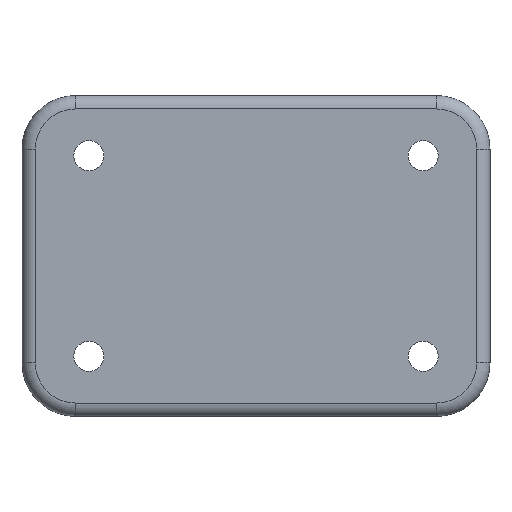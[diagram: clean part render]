
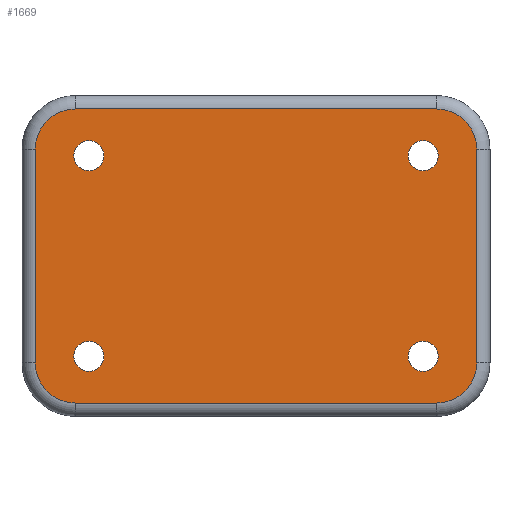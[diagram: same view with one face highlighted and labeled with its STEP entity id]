
A CAD part, front view. The second image highlights one B-rep face of the part: STEP entity #1669.
In plain terms, the highlighted planar face has unit normal (0, -1, 0).
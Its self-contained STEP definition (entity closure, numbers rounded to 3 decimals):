
#35=FACE_BOUND('',#240,.T.);
#36=FACE_BOUND('',#241,.T.);
#37=FACE_BOUND('',#242,.T.);
#38=FACE_BOUND('',#243,.T.);
#94=PLANE('',#1801);
#140=FACE_OUTER_BOUND('',#239,.T.);
#239=EDGE_LOOP('',(#1138,#1139,#1140,#1141,#1142,#1143,#1144,#1145));
#240=EDGE_LOOP('',(#1146));
#241=EDGE_LOOP('',(#1147));
#242=EDGE_LOOP('',(#1148));
#243=EDGE_LOOP('',(#1149));
#335=LINE('',#2502,#444);
#336=LINE('',#2513,#445);
#338=LINE('',#2525,#447);
#340=LINE('',#2537,#449);
#444=VECTOR('',#1983,10.);
#445=VECTOR('',#1996,10.);
#447=VECTOR('',#2010,10.);
#449=VECTOR('',#2024,10.);
#555=CIRCLE('',#1775,3.);
#559=CIRCLE('',#1781,3.);
#563=CIRCLE('',#1787,3.);
#567=CIRCLE('',#1793,3.);
#570=CIRCLE('',#1802,1.125);
#571=CIRCLE('',#1803,1.125);
#572=CIRCLE('',#1804,1.125);
#573=CIRCLE('',#1805,1.125);
#659=VERTEX_POINT('',#2495);
#662=VERTEX_POINT('',#2500);
#664=VERTEX_POINT('',#2505);
#666=VERTEX_POINT('',#2511);
#668=VERTEX_POINT('',#2517);
#670=VERTEX_POINT('',#2523);
#672=VERTEX_POINT('',#2529);
#674=VERTEX_POINT('',#2535);
#686=VERTEX_POINT('',#2591);
#687=VERTEX_POINT('',#2593);
#688=VERTEX_POINT('',#2595);
#689=VERTEX_POINT('',#2597);
#822=EDGE_CURVE('',#662,#659,#335,.T.);
#824=EDGE_CURVE('',#664,#662,#555,.T.);
#827=EDGE_CURVE('',#666,#664,#336,.T.);
#830=EDGE_CURVE('',#668,#666,#559,.T.);
#833=EDGE_CURVE('',#670,#668,#338,.T.);
#836=EDGE_CURVE('',#672,#670,#563,.T.);
#839=EDGE_CURVE('',#674,#672,#340,.T.);
#842=EDGE_CURVE('',#659,#674,#567,.T.);
#858=EDGE_CURVE('',#686,#686,#570,.T.);
#859=EDGE_CURVE('',#687,#687,#571,.T.);
#860=EDGE_CURVE('',#688,#688,#572,.T.);
#861=EDGE_CURVE('',#689,#689,#573,.T.);
#1138=ORIENTED_EDGE('',*,*,#822,.F.);
#1139=ORIENTED_EDGE('',*,*,#824,.F.);
#1140=ORIENTED_EDGE('',*,*,#827,.F.);
#1141=ORIENTED_EDGE('',*,*,#830,.F.);
#1142=ORIENTED_EDGE('',*,*,#833,.F.);
#1143=ORIENTED_EDGE('',*,*,#836,.F.);
#1144=ORIENTED_EDGE('',*,*,#839,.F.);
#1145=ORIENTED_EDGE('',*,*,#842,.F.);
#1146=ORIENTED_EDGE('',*,*,#858,.T.);
#1147=ORIENTED_EDGE('',*,*,#859,.T.);
#1148=ORIENTED_EDGE('',*,*,#860,.T.);
#1149=ORIENTED_EDGE('',*,*,#861,.T.);
#1669=ADVANCED_FACE('',(#140,#35,#36,#37,#38),#94,.T.);
#1775=AXIS2_PLACEMENT_3D('',#2507,#1988,#1989);
#1781=AXIS2_PLACEMENT_3D('',#2519,#2002,#2003);
#1787=AXIS2_PLACEMENT_3D('',#2531,#2016,#2017);
#1793=AXIS2_PLACEMENT_3D('',#2541,#2030,#2031);
#1801=AXIS2_PLACEMENT_3D('',#2590,#2054,#2055);
#1802=AXIS2_PLACEMENT_3D('',#2592,#2056,#2057);
#1803=AXIS2_PLACEMENT_3D('',#2594,#2058,#2059);
#1804=AXIS2_PLACEMENT_3D('',#2596,#2060,#2061);
#1805=AXIS2_PLACEMENT_3D('',#2598,#2062,#2063);
#1983=DIRECTION('',(-1.,0.,0.));
#1988=DIRECTION('center_axis',(0.,1.,0.));
#1989=DIRECTION('ref_axis',(0.707,0.,-0.707));
#1996=DIRECTION('',(0.,0.,-1.));
#2002=DIRECTION('center_axis',(0.,1.,0.));
#2003=DIRECTION('ref_axis',(0.707,0.,0.707));
#2010=DIRECTION('',(1.,0.,0.));
#2016=DIRECTION('center_axis',(0.,1.,0.));
#2017=DIRECTION('ref_axis',(-0.707,0.,0.707));
#2024=DIRECTION('',(0.,0.,1.));
#2030=DIRECTION('center_axis',(0.,1.,0.));
#2031=DIRECTION('ref_axis',(-0.707,0.,-0.707));
#2054=DIRECTION('center_axis',(0.,-1.,0.));
#2055=DIRECTION('ref_axis',(1.,0.,0.));
#2056=DIRECTION('center_axis',(0.,1.,0.));
#2057=DIRECTION('ref_axis',(1.,0.,0.));
#2058=DIRECTION('center_axis',(0.,1.,0.));
#2059=DIRECTION('ref_axis',(1.,0.,0.));
#2060=DIRECTION('center_axis',(0.,1.,0.));
#2061=DIRECTION('ref_axis',(1.,0.,0.));
#2062=DIRECTION('center_axis',(0.,1.,0.));
#2063=DIRECTION('ref_axis',(1.,0.,0.));
#2495=CARTESIAN_POINT('',(-13.5,-36.,-19.));
#2500=CARTESIAN_POINT('',(13.5,-36.,-19.));
#2502=CARTESIAN_POINT('',(3.75,-36.,-19.));
#2505=CARTESIAN_POINT('',(16.5,-36.,-16.));
#2507=CARTESIAN_POINT('Origin',(13.5,-36.,-16.));
#2511=CARTESIAN_POINT('',(16.5,-36.,0.));
#2513=CARTESIAN_POINT('',(16.5,-36.,2.));
#2517=CARTESIAN_POINT('',(13.5,-36.,3.));
#2519=CARTESIAN_POINT('Origin',(13.5,-36.,0.));
#2523=CARTESIAN_POINT('',(-13.5,-36.,3.));
#2525=CARTESIAN_POINT('',(-5.,-36.,3.));
#2529=CARTESIAN_POINT('',(-16.5,-36.,0.));
#2531=CARTESIAN_POINT('Origin',(-13.5,-36.,0.));
#2535=CARTESIAN_POINT('',(-16.5,-36.,-16.));
#2537=CARTESIAN_POINT('',(-16.5,-36.,-10.));
#2541=CARTESIAN_POINT('Origin',(-13.5,-36.,-16.));
#2590=CARTESIAN_POINT('Origin',(-10.,-36.,0.));
#2591=CARTESIAN_POINT('',(11.375,-36.,-15.5));
#2592=CARTESIAN_POINT('Origin',(12.5,-36.,-15.5));
#2593=CARTESIAN_POINT('',(-13.625,-36.,-0.5));
#2594=CARTESIAN_POINT('Origin',(-12.5,-36.,-0.5));
#2595=CARTESIAN_POINT('',(11.375,-36.,-0.5));
#2596=CARTESIAN_POINT('Origin',(12.5,-36.,-0.5));
#2597=CARTESIAN_POINT('',(-13.625,-36.,-15.5));
#2598=CARTESIAN_POINT('Origin',(-12.5,-36.,-15.5));
